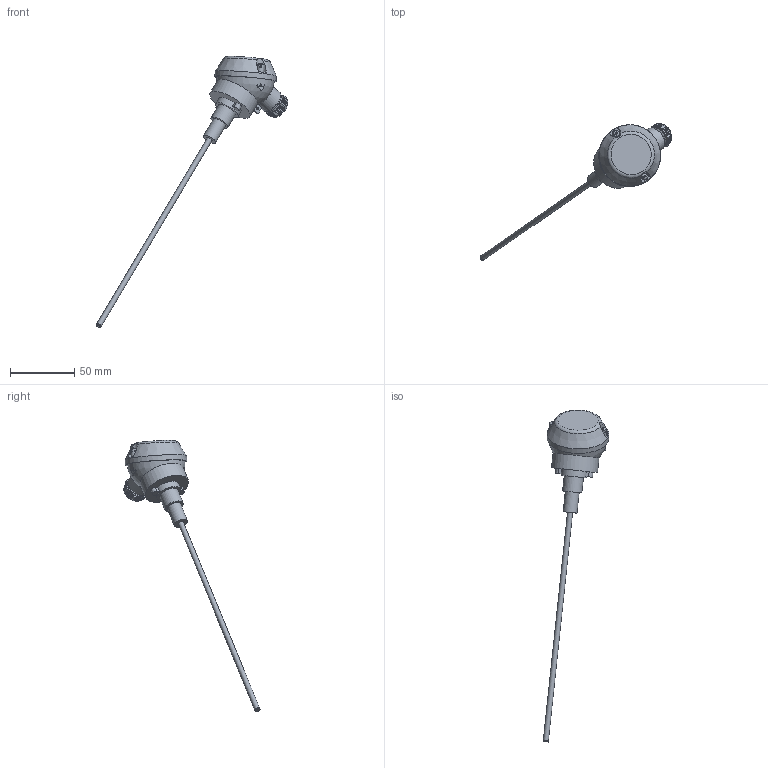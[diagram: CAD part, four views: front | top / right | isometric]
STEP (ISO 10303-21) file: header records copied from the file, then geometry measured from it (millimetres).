
FILE_DESCRIPTION(('STEP AP203'), '1');
FILE_NAME('òñï-í 5.0-180ìì(ñáîðêà)', '', ('UNSPECIFIED'), ('UNSPECIFIED'), 'ASCON STEP Converter 1.6', 'ASCON Math Kernel', '');
FILE_SCHEMA(('CONFIG_CONTROL_DESIGN'));
Length unit declared in the file: millimetre
Products named in the file (17): 栖闉罻; ﾘ琺矜 4; Ãàéêà Ì4; Êë êàëîäêà 731196-002; ﾘ琺矜 758480-006; Êîðïóñ 731196_Ïî óìîë÷àíèþ; Êîëüöî óïëîòíèòåëüíîå 754100-003_Ïî óìîë÷àíèþ; Âèíò Ì3-6; Âèíò 758410-005_Ïî óìîë÷àíèþ; Ïðîêëàäêà 754100_Ïî óìîë÷àíèþ; Êîðïóñ 723110-008-09_Ïî óìîë÷àíèþ; Çàãëóøêà 752513-004-01_Ïî óìîë÷àíèþ; Êðûøêà 753214_Ïî óìîë÷àíèþ; Ïåðåìû÷êà 758480-009; Âòóëêà ðåçüáîâàÿ 715341-002_Ïî óìîë÷àíèþ; Âèíò 715341-003_Ïî óìîë÷àíèþ
Assembly tree (40 placements, depth 3):
  栖闉罻
    ﾘ琺矜 4  x12
    Ãàéêà Ì4  x8
    Êë êàëîäêà 731196-002
    ﾘ琺矜 758480-006  x4
    Êîðïóñ 731196_Ïî óìîë÷àíèþ
    Êîëüöî óïëîòíèòåëüíîå 754100-003_Ïî óìîë÷àíèþ
    Âèíò Ì3-6  x2
    Âèíò 758410-005_Ïî óìîë÷àíèþ  x2
    Ïðîêëàäêà 754100_Ïî óìîë÷àíèþ
    Êîðïóñ 723110-008-09_Ïî óìîë÷àíèþ
      (unnamed)
      Çàãëóøêà 752513-004-01_Ïî óìîë÷àíèþ
    Êðûøêà 753214_Ïî óìîë÷àíèþ
    Ïåðåìû÷êà 758480-009  x2
    Âòóëêà ðåçüáîâàÿ 715341-002_Ïî óìîë÷àíèþ
    Âèíò 715341-003_Ïî óìîë÷àíèþ
Bounding box: 149.11 x 105.91 x 210.86 mm (x, y, z)
Volume: 41545 mm3; surface area: 36712.7 mm2
Topology: 39 solids, 39 shells, 821 faces, 2134 edges, 1416 vertices
Faces by surface type: plane 361, cylinder 305, cone 70, bspline 64, torus 19, sphere 2
Full cylindrical faces by diameter (mm): 1.6 x9, 2.46 x2, 2.5 x2, 3 x3, 3.4 x2, 3.5 x1, 4 x14, 4.2 x4, 4.3 x4, 4.5 x1, 5 x2, 5.2 x1, 6 x3, 7 x1, 8 x1, 9 x12, 10 x1, 10.8 x1, 14 x1, 15 x1, 19 x1, 20 x1, 31 x1, 33 x1, 35 x1, 36 x1, 45.5 x1, 46 x1, 48 x1
Entity records: 112943 total; most frequent: CARTESIAN_POINT 95135, ORIENTED_EDGE 2736, DIRECTION 2019, EDGE_CURVE 1368, VERTEX_POINT 950, AXIS2_PLACEMENT_3D 748, EDGE_LOOP 668, B_SPLINE_CURVE_WITH_KNOTS 593
